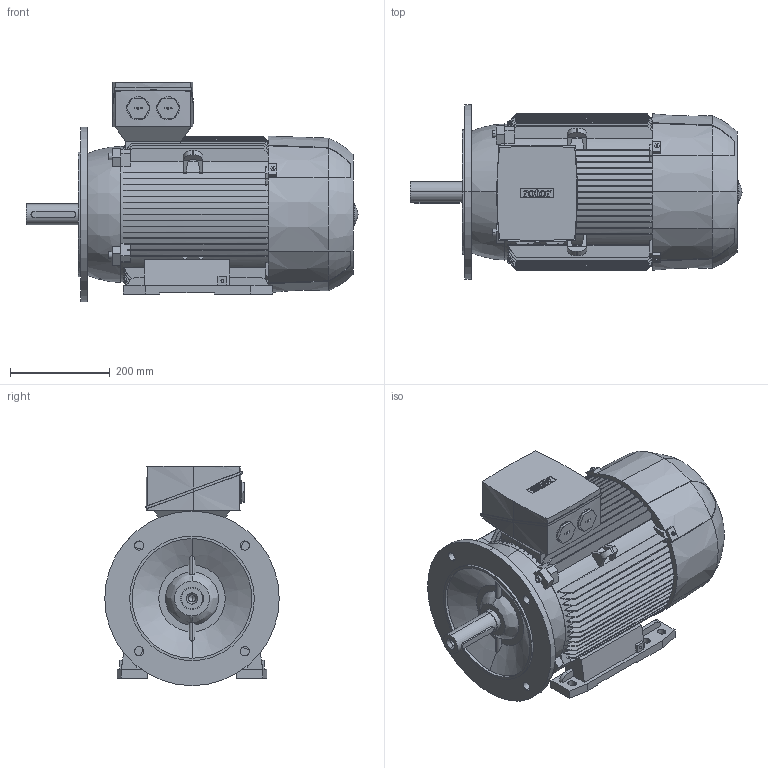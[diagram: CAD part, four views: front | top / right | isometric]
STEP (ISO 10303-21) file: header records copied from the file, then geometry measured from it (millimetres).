
FILE_DESCRIPTION (( 'STEP AP214' ), '1' );
FILE_NAME ('6RN160L02E16 IM2041.STEP', '2016-12-30T10:49:57', ( 'rbc_ict' ), ( 'Microsoft' ), 'SwSTEP 2.0', 'SolidWorks 2015', '' );
FILE_SCHEMA (( 'AUTOMOTIVE_DESIGN' ));
Length unit declared in the file: millimetre
Products named in the file (1): 6RN160L02E16 IM2041
Bounding box: 666 x 350 x 440 mm (x, y, z)
Volume: 39003262 mm3; surface area: 1670821.6 mm2
Topology: 1 solids, 1 shells, 1040 faces, 2951 edges, 1949 vertices
Faces by surface type: plane 628, cylinder 203, bspline 184, cone 25
Entity records: 50410 total; most frequent: CARTESIAN_POINT 14545, ORIENTED_EDGE 5894, DIRECTION 4438, EDGE_CURVE 2947, VERTEX_POINT 1949, LINE 1722, VECTOR 1722, AXIS2_PLACEMENT_3D 1358
